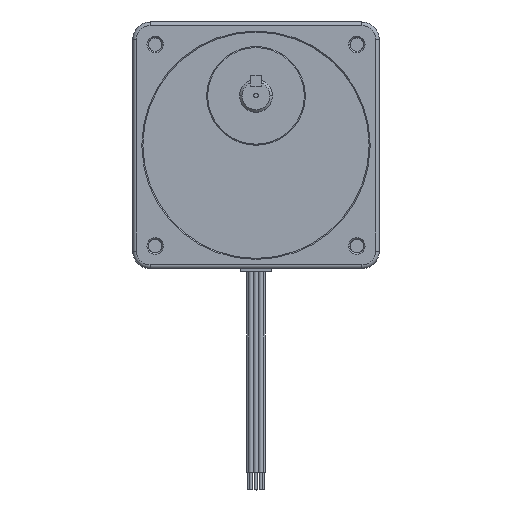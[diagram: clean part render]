
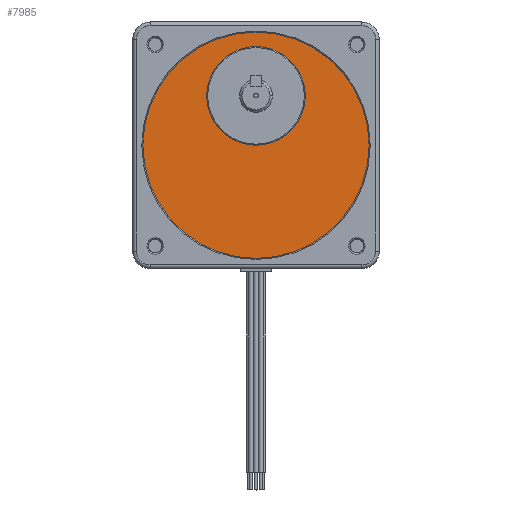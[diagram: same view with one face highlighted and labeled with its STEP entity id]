
A CAD part, top view. The second image highlights one B-rep face of the part: STEP entity #7985.
In plain terms, the highlighted planar face has unit normal (0, 0, 1).
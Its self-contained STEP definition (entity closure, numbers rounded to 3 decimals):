
#2336 = VERTEX_POINT ( 'NONE', #8905 ) ;
#2989 = EDGE_CURVE ( 'NONE', #12371, #2990, #13251, .T. ) ;
#2990 = VERTEX_POINT ( 'NONE', #13213 ) ;
#7283 = VERTEX_POINT ( 'NONE', #16177 ) ;
#7984 = ORIENTED_EDGE ( 'NONE', *, *, #2989, .F. ) ;
#7985 = ADVANCED_FACE ( 'NONE', ( #18364, #18380 ), #18407, .T. ) ;
#7986 = ORIENTED_EDGE ( 'NONE', *, *, #7989, .T. ) ;
#7989 = EDGE_CURVE ( 'NONE', #7283, #2336, #18423, .T. ) ;
#7990 = EDGE_CURVE ( 'NONE', #2990, #12371, #18444, .T. ) ;
#7993 = ORIENTED_EDGE ( 'NONE', *, *, #7990, .F. ) ;
#7996 = ORIENTED_EDGE ( 'NONE', *, *, #18023, .T. ) ;
#7997 = EDGE_LOOP ( 'NONE', ( #7986, #7996 ) ) ;
#7998 = EDGE_LOOP ( 'NONE', ( #7993, #7984 ) ) ;
#8905 = CARTESIAN_POINT ( 'NONE',  ( -41.275, 0., 59. ) ) ;
#10559 = DIRECTION ( 'NONE',  ( 1., 0., 0. ) ) ;
#10560 = DIRECTION ( 'NONE',  ( 0., 0., 1. ) ) ;
#10564 = CIRCLE ( 'NONE', #10570, 41.275 ) ;
#10570 = AXIS2_PLACEMENT_3D ( 'NONE', #10577, #10560, #10559 ) ;
#10577 = CARTESIAN_POINT ( 'NONE',  ( 0., 0., 59. ) ) ;
#12371 = VERTEX_POINT ( 'NONE', #19993 ) ;
#13213 = CARTESIAN_POINT ( 'NONE',  ( -17.996, 18.009, 59. ) ) ;
#13225 = CARTESIAN_POINT ( 'NONE',  ( 0., 18.009, 59. ) ) ;
#13250 = AXIS2_PLACEMENT_3D ( 'NONE', #13225, #13286, #13285 ) ;
#13251 = CIRCLE ( 'NONE', #13250, 17.996 ) ;
#13285 = DIRECTION ( 'NONE',  ( 1., 0., 0. ) ) ;
#13286 = DIRECTION ( 'NONE',  ( 0., 0., 1. ) ) ;
#16177 = CARTESIAN_POINT ( 'NONE',  ( 41.275, 0., 59. ) ) ;
#18023 = EDGE_CURVE ( 'NONE', #2336, #7283, #10564, .T. ) ;
#18364 = FACE_OUTER_BOUND ( 'NONE', #7997, .T. ) ;
#18380 = FACE_BOUND ( 'NONE', #7998, .T. ) ;
#18396 = AXIS2_PLACEMENT_3D ( 'NONE', #18474, #18438, #18471 ) ;
#18407 = PLANE ( 'NONE',  #18410 ) ;
#18410 = AXIS2_PLACEMENT_3D ( 'NONE', #18442, #18441, #18440 ) ;
#18423 = CIRCLE ( 'NONE', #18396, 41.275 ) ;
#18424 = AXIS2_PLACEMENT_3D ( 'NONE', #18472, #18470, #18466 ) ;
#18438 = DIRECTION ( 'NONE',  ( 0., 0., 1. ) ) ;
#18440 = DIRECTION ( 'NONE',  ( 1., 0., 0. ) ) ;
#18441 = DIRECTION ( 'NONE',  ( 0., 0., 1. ) ) ;
#18442 = CARTESIAN_POINT ( 'NONE',  ( 0., 0., 59. ) ) ;
#18444 = CIRCLE ( 'NONE', #18424, 17.996 ) ;
#18466 = DIRECTION ( 'NONE',  ( 1., 0., 0. ) ) ;
#18470 = DIRECTION ( 'NONE',  ( 0., 0., 1. ) ) ;
#18471 = DIRECTION ( 'NONE',  ( 1., 0., 0. ) ) ;
#18472 = CARTESIAN_POINT ( 'NONE',  ( 0., 18.009, 59. ) ) ;
#18474 = CARTESIAN_POINT ( 'NONE',  ( 0., 0., 59. ) ) ;
#19993 = CARTESIAN_POINT ( 'NONE',  ( 17.996, 18.009, 59. ) ) ;
